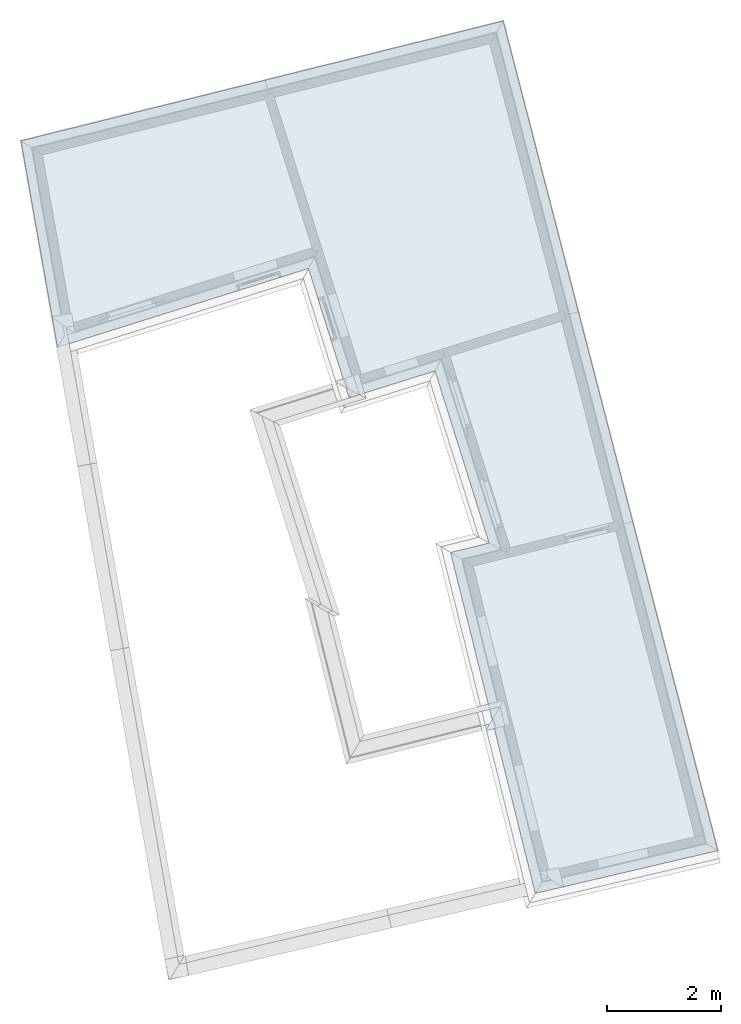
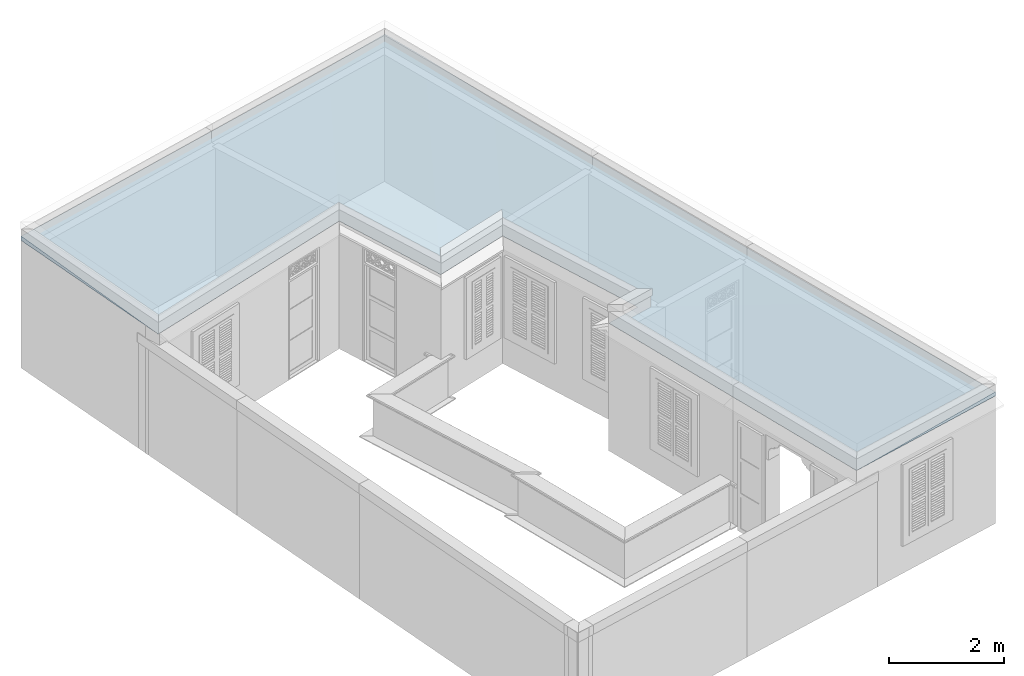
# One storey, part 13 of 13: 1 roof.
"""IFC4 building model written with IfcOpenShell, lengths in metres."""

import ifcopenshell
import ifcopenshell.guid

model = None  # the IFC model being written
_history = None  # IfcOwnerHistory: only IFC2X3 demands one
_inside = {}  # id of a spatial element -> (the spatial element, [elements in it])
_under = {}  # id of a project, library or spatial element -> (it, [spatial elements below it])
_declared = {}  # id of a project -> (the project, [libraries it declares])
_typed = {}  # id of a type object -> (the type object, [elements of that type])
_made_of = {}  # id of a material, layer set ... -> (it, [elements and type objects made of it])


def new_model(schema):
    """Start an empty IFC model of exactly this schema.

    Asked for "IFC4X3", IfcOpenShell would pick the latest addendum, in which some entities
    have other attributes; the version numbers below select the first issue.
    IFC2X3 requires an IfcOwnerHistory on every rooted entity: one is made here for all.
    """
    global model, _history
    if schema == "IFC4X3":
        model = ifcopenshell.file(schema_version=(4, 3, 0, 0))
    else:
        model = ifcopenshell.file(schema=schema)
    _inside.clear()
    _under.clear()
    _declared.clear()
    _typed.clear()
    _made_of.clear()
    _history = None
    if model.schema == "IFC2X3":
        org = make("IfcOrganization", Name="unknown")
        user = make(
            "IfcPersonAndOrganization",
            ThePerson=make("IfcPerson", FamilyName="unknown"),
            TheOrganization=org,
        )
        app = make(
            "IfcApplication",
            ApplicationDeveloper=org,
            Version="unknown",
            ApplicationFullName="unknown",
            ApplicationIdentifier="unknown",
        )
        _history = make(
            "IfcOwnerHistory",
            OwningUser=user,
            OwningApplication=app,
            ChangeAction="ADDED",
            CreationDate=0,
        )
    return model


def make(cls, **values):
    """One entity of the class cls with the attributes given. An attribute that is None is left unset."""
    return model.create_entity(
        cls, **{name: value for name, value in values.items() if value is not None}
    )


def rooted(cls, **values):
    """An entity with a GlobalId (a new one), such as an element, a storey or a relation."""
    return make(cls, GlobalId=ifcopenshell.guid.new(), OwnerHistory=_history, **values)


def si_unit(unit_type, name, prefix=None):
    """IfcSIUnit, for example si_unit("LENGTHUNIT", "METRE", prefix="MILLI")."""
    return make("IfcSIUnit", UnitType=unit_type, Prefix=prefix, Name=name)


def assignment(units):
    """IfcUnitAssignment: the units of a project."""
    return None if units is None else make("IfcUnitAssignment", Units=units)


def point(xyz):
    """IfcCartesianPoint."""
    return None if xyz is None else make("IfcCartesianPoint", Coordinates=xyz)


def direction(xyz):
    """IfcDirection."""
    return None if xyz is None else make("IfcDirection", DirectionRatios=xyz)


def frame(location, z_axis=None, x_axis=None):
    """IfcAxis2Placement3D, a coordinate frame: its origin and axes. An axis left out is left unset."""
    return make(
        "IfcAxis2Placement3D",
        Location=point(location),
        Axis=direction(z_axis),
        RefDirection=direction(x_axis),
    )


def origin():
    """The frame at (0, 0, 0) with its axes left unset."""
    return frame((0.0, 0.0, 0.0))


def origin_with_axes():
    """The frame at (0, 0, 0) with the z axis (0, 0, 1) and the x axis (1, 0, 0) written out."""
    return frame((0.0, 0.0, 0.0), z_axis=(0.0, 0.0, 1.0), x_axis=(1.0, 0.0, 0.0))


def place(relative_to, where):
    """IfcLocalPlacement: puts the frame where relative to a parent placement (None: the world)."""
    return make(
        "IfcLocalPlacement", PlacementRelTo=relative_to, RelativePlacement=where
    )


def context(
    kind, dimensions, precision=None, world=None, true_north=None, identifier=None
):
    """IfcGeometricRepresentationContext, for example the 3D "Model" context."""
    return make(
        "IfcGeometricRepresentationContext",
        ContextIdentifier=identifier,
        ContextType=kind,
        CoordinateSpaceDimension=dimensions,
        Precision=precision,
        WorldCoordinateSystem=world,
        TrueNorth=true_north,
    )


def subcontext(parent, identifier, kind, view, scale=None):
    """IfcGeometricRepresentationSubContext, for example "Body" below "Model"."""
    return make(
        "IfcGeometricRepresentationSubContext",
        ContextIdentifier=identifier,
        ContextType=kind,
        ParentContext=parent,
        TargetScale=scale,
        TargetView=view,
    )


def project(units=None, contexts=None):
    """IfcProject with its units and contexts."""
    return rooted(
        "IfcProject",
        Name="project",
        RepresentationContexts=contexts,
        UnitsInContext=assignment(units),
    )


def spatial(cls, under=None, at=None, **own):
    """A site, building, storey or space (cls), placed at a placement, below another one or the project."""
    s = rooted(cls, ObjectPlacement=at, **own)
    if under is not None:
        _under.setdefault(under.id(), (under, []))[1].append(s)
    return s


def boolean(op, a, b):
    """IfcBooleanResult of two solids."""
    return make("IfcBooleanResult", Operator=op, FirstOperand=a, SecondOperand=b)


def faces_of(points, faces, orient=None, outer=None):
    """IfcFace entities. A face is a list of loops; a loop is a list of indices into points, from 0.

    orient and outer hold one flag for each loop. By default every Orientation is true, the
    first loop of a face is its IfcFaceOuterBound and the others are IfcFaceBound.
    """
    made = []
    for i, loops in enumerate(faces):
        bounds = []
        for j, loop in enumerate(loops):
            is_outer = j == 0 if outer is None else outer[i][j]
            bounds.append(
                make(
                    "IfcFaceOuterBound" if is_outer else "IfcFaceBound",
                    Bound=make("IfcPolyLoop", Polygon=[points[k] for k in loop]),
                    Orientation=True if orient is None else orient[i][j],
                )
            )
        made.append(make("IfcFace", Bounds=bounds))
    return made


def faceted_brep(points, faces, orient=None, outer=None, voids=None):
    """IfcFacetedBrep: a solid bounded by flat faces; with voids (closed shells), ...WithVoids."""
    shared = [point(p) for p in points]
    hull = make("IfcClosedShell", CfsFaces=faces_of(shared, faces, orient, outer))
    if voids is None:
        return make("IfcFacetedBrep", Outer=hull)
    return make(
        "IfcFacetedBrepWithVoids",
        Outer=hull,
        Voids=[
            make(cls, CfsFaces=faces_of(shared, fs, o, b)) for cls, fs, o, b in voids
        ],
    )


def shape(context_of_items, identifier, shape_type, items):
    """IfcShapeRepresentation: the items that make up one representation, for example the "Body"."""
    return make(
        "IfcShapeRepresentation",
        ContextOfItems=context_of_items,
        RepresentationIdentifier=identifier,
        RepresentationType=shape_type,
        Items=items,
    )


def made_of(thing, what):
    """Note that an element or type object is made of a material, layer set ...; save() writes the relation."""
    if what is not None:
        _made_of.setdefault(what.id(), (what, []))[1].append(thing)
    return thing


def element(
    cls,
    number,
    at=None,
    inside=None,
    cuts=None,
    type_object=None,
    material=None,
    context=None,
    identifier="Body",
    shape_type=None,
    held_by="IfcProductDefinitionShape",
    body=None,
    shapes=None,
    **own,
):
    """One element of the class cls, such as IfcWall. Its Tag is "e" and its number.

    at: its placement. inside: the storey or other place that contains it. cuts: it is an
    opening in that element (IfcRelVoidsElement). A single representation is given by context,
    identifier, shape_type and body (its items); several are given by shapes. held_by: the class
    of the entity that holds the representations. save() writes the other relations.
    """
    e = rooted(cls, Tag="e%d" % number, ObjectPlacement=at, **own)
    if body is not None:
        shapes = [shape(context, identifier, shape_type, body)]
    if shapes is not None:
        e.Representation = make(held_by, Representations=shapes)
    if inside is not None:
        _inside.setdefault(inside.id(), (inside, []))[1].append(e)
    if cuts is not None:
        rooted(
            "IfcRelVoidsElement", RelatingBuildingElement=cuts, RelatedOpeningElement=e
        )
    if type_object is not None:
        _typed.setdefault(type_object.id(), (type_object, []))[1].append(e)
    return made_of(e, material)


def aggregate(whole, parts):
    """IfcRelAggregates: a whole, such as a stair, and the parts it consists of."""
    return rooted("IfcRelAggregates", RelatingObject=whole, RelatedObjects=parts)


def save(model, path):
    """Write the relations noted so far, then the file.

    IfcRelAggregates (storeys below a building ...), IfcRelContainedInSpatialStructure (elements
    in a storey), IfcRelDefinesByType, IfcRelAssociatesMaterial and IfcRelDeclares: one each for
    every whole, place, type object, material and project.
    """
    for whole, parts in _under.values():
        aggregate(whole, parts)
    for where, things in _inside.values():
        rooted(
            "IfcRelContainedInSpatialStructure",
            RelatedElements=things,
            RelatingStructure=where,
        )
    for kind, things in _typed.values():
        rooted("IfcRelDefinesByType", RelatedObjects=things, RelatingType=kind)
    for what, things in _made_of.values():
        rooted("IfcRelAssociatesMaterial", RelatedObjects=things, RelatingMaterial=what)
    for by, libraries in _declared.values():
        rooted("IfcRelDeclares", RelatingContext=by, RelatedDefinitions=libraries)
    model.write(path)


model = new_model("IFC4")

# Units and contexts
model_context = context("Model", 3, world=origin_with_axes())
body_context = subcontext(model_context, "Body", "Model", "MODEL_VIEW")
ifc_project = project(units=[si_unit("PLANEANGLEUNIT", "RADIAN"), si_unit("MASSUNIT", "GRAM", prefix="KILO"), si_unit("FORCEUNIT", "NEWTON", prefix="KILO"), si_unit("LENGTHUNIT", "METRE"), si_unit("AREAUNIT", "SQUARE_METRE"), si_unit("VOLUMEUNIT", "CUBIC_METRE")], contexts=[model_context, model_context])

# Site, building, storey
site_placement = place(None, origin_with_axes())
site = spatial("IfcSite", under=ifc_project, at=site_placement, Name="Site plot-0", CompositionType="ELEMENT")
building_placement = place(None, origin_with_axes())
building = spatial("IfcBuilding", under=site, at=building_placement, Name="Building plot-0", CompositionType="ELEMENT")
storey_placement = place(None, frame((0.0, 0.0, 3.6), z_axis=(0.0, 0.0, 1.0), x_axis=(1.0, 0.0, 0.0)))
storey = spatial("IfcBuildingStorey", under=building, at=storey_placement, Name="plot-0 1", CompositionType="ELEMENT", Elevation=3.6)

# Roof
roof_placement = place(building_placement, origin())
element("IfcRoof", 1, at=roof_placement, inside=storey, Name="Roof", PredefinedType="FREEFORM", context=body_context, shape_type="CSG", body=[
    boolean("UNION", boolean("UNION", boolean("UNION", faceted_brep([(4.465235, 14.898227, 6.3), (8.989794, 0.496504, 6.3), (11.157861, 1.004281, 6.355515), (7.375289, 15.62153, 6.374826), (7.375289, 15.62153, 6.3), (11.157861, 1.004281, 6.3)], [[[0, 1, 2, 3]], [[4, 5, 1, 0]], [[3, 4, 0]], [[2, 1, 5]], [[2, 5, 4, 3]]]), faceted_brep([(-0.476959, 9.871026, 6.3), (8.16111, 12.58483, 6.3), (7.375289, 15.62153, 6.378315), (-1.12, 13.51, 6.39161), (-1.12, 13.51, 6.3), (7.375289, 15.62153, 6.3)], [[[0, 1, 2, 3]], [[4, 5, 1, 0]], [[3, 4, 0]], [[2, 1, 5]], [[2, 5, 4, 3]]])), faceted_brep([(2.923633, 14.515057, 6.3), (4.662189, 8.981212, 6.3), (7.624673, 14.657821, 6.413193), (7.375289, 15.62153, 6.414466), (7.375289, 15.62153, 6.3), (8.760451, 10.268755, 6.3)], [[[0, 1, 2, 3]], [[4, 5, 1, 0]], [[3, 4, 0]], [[2, 1, 5]], [[2, 5, 4, 3]]])), faceted_brep([(6.44944, 6.256997, 6.3), (7.942211, 0.251153, 6.3), (11.157861, 1.004281, 6.382559), (10.416429, 3.869448, 6.381849), (9.596195, 7.039133, 6.3), (11.157861, 1.004281, 6.3)], [[[0, 1, 2, 3]], [[4, 5, 1, 0]], [[3, 4, 0]], [[2, 1, 5]], [[2, 5, 4, 3]]])),
])

save(model, "model.ifc")
